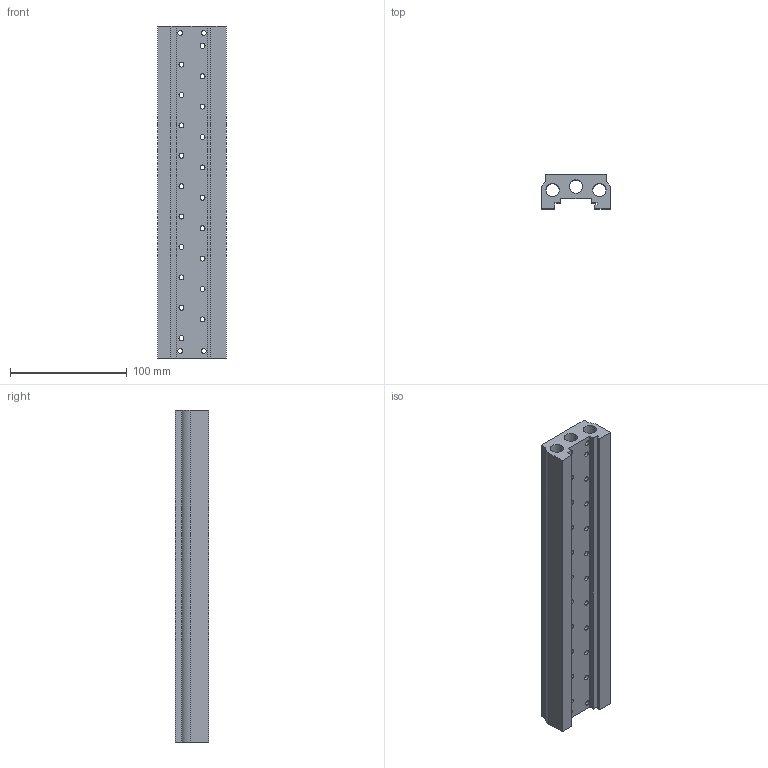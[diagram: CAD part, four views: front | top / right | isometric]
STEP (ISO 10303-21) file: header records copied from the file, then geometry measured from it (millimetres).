
FILE_DESCRIPTION((''),'2;1');
FILE_NAME('K:\A-Roberto\_Inventor\Rev.Librerie\TECNOECO\T488_ ##\T488_ 10.stp','2006-10-06T08:56:02',('rivolro1'),(''),'Autodesk Inventor 11','Autodesk Inventor 11','');
FILE_SCHEMA(('AUTOMOTIVE_DESIGN { 1 0 10303 214 1 1 1 1 }'));
Length unit declared in the file: millimetre
Products named in the file (1): T488_ 10
Bounding box: 59 x 29 x 284 mm (x, y, z)
Volume: 283290 mm3; surface area: 98114.5 mm2
Topology: 1 solids, 1 shells, 225 faces, 517 edges, 338 vertices
Faces by surface type: bspline 202, plane 18, cylinder 5
Full cylindrical faces by diameter (mm): 11.5 x3
Entity records: 9801 total; most frequent: CARTESIAN_POINT 5902, ORIENTED_EDGE 672, DIRECTION 570, EDGE_LOOP 524, EDGE_CURVE 336, FACE_BOUND 299, VERTEX_POINT 298, AXIS2_PLACEMENT_3D 260
